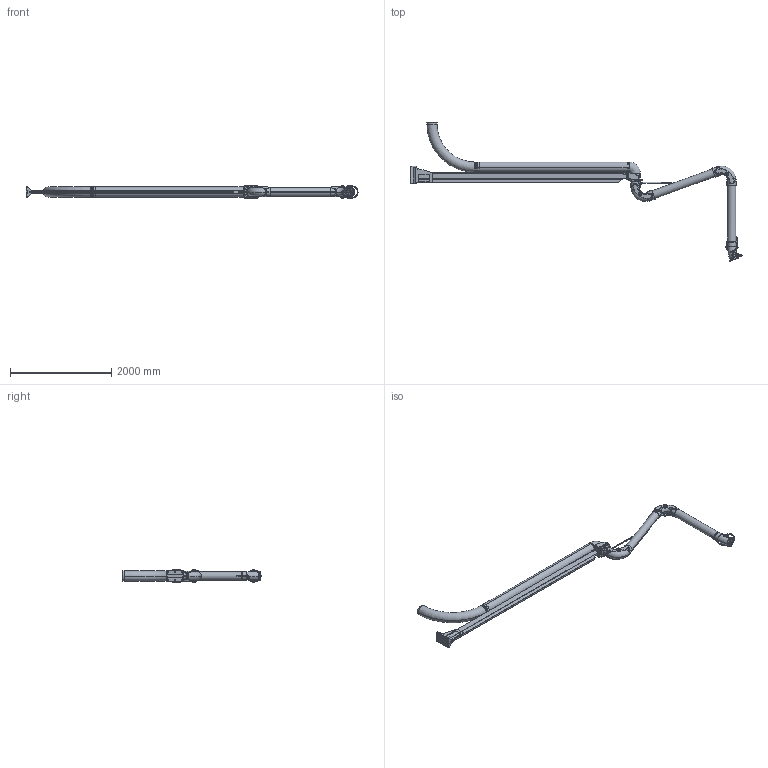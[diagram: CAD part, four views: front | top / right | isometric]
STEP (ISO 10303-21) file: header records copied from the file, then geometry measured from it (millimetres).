
FILE_DESCRIPTION((''),'2;1');
FILE_NAME('138797','2019-03-11T11:41:21',('Gustav Stenberg'),(''),'CREO PARAMETRIC BY PTC INC, 2018260','CREO PARAMETRIC BY PTC INC, 2018260','');
FILE_SCHEMA(('AUTOMOTIVE_DESIGN { 1 0 10303 214 1 1 1 1 }'));
Length unit declared in the file: millimetre
Products named in the file (66): 136203; 136645; 136646; 100-6334-01; 100-6336-04; 100-6336-02; 100-6325-05; 100-6325-01; 100-6336; 100-6333-1; 100-6333-2; 100-6308-3; 100-6333; 100-6308-7; 100-6308-05; 100-6308-4; 9908510; 100-6333_RENAME; 138778; LIGHT_SWIVEL_160_AF1; 126194_AF0; G_PRX_SVIVEL_SPRINGMOUNT; 138752_AF0; 124030; 124031; 105-5481_1; 101156_1; 124035_AF6; 124035_AF7; 124035_AF9; 124035_AF8; 124885; 124894; 124866; 125076; 124874; 124951; 126055_AF20; 124964_AF1; 142700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
Assembly tree (84 placements, depth 6):
  138797
    136646
      136203
      136645
    138778
      100-6336
        100-6334-01
        100-6336-04  x2
        100-6336-02
        100-6325-05
        100-6325-01
      100-6333_RENAME
        100-6333
          100-6333-1
          100-6333-2
          100-6308-3
        100-6308-4
          100-6308-7
          100-6308-05
        9908510
    124975_AF0
      138752_AF0
        126194_AF0
          LIGHT_SWIVEL_160_AF1
        G_PRX_SVIVEL_SPRINGMOUNT
      124035_AF6
        124030
        124031
        101156_1
          105-5481_1
      124035_AF7
        124030
        124031
        101156_1
          105-5481_1
      124964_AF1
        124035_AF9
          124030
          124031
          101156_1
            105-5481_1
        124035_AF8
          124030
          124031
          101156_1
            105-5481_1
        124885
        124951
          124894
          124874
            124866
            125076
        126055_AF20
      142481_AF0
        142700  x2
        142473  x2
        142858
          199-808-160
          142440
          142441
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Bounding box: 6561.15 x 2728.86 x 260.22 mm (x, y, z)
Volume: 48036601.2 mm3; surface area: 14506116.4 mm2
Topology: 62 solids, 62 shells, 1501 faces, 3683 edges, 2385 vertices
Faces by surface type: cylinder 580, plane 579, cone 144, bspline 110, torus 64, sphere 24
Entity records: 53297 total; most frequent: CARTESIAN_POINT 12920, DIRECTION 5968, ORIENTED_EDGE 5234, PRESENTATION_STYLE_ASSIGNMENT 2648, STYLED_ITEM 2648, EDGE_CURVE 2617, AXIS2_PLACEMENT_3D 2317, CURVE_STYLE 2001
